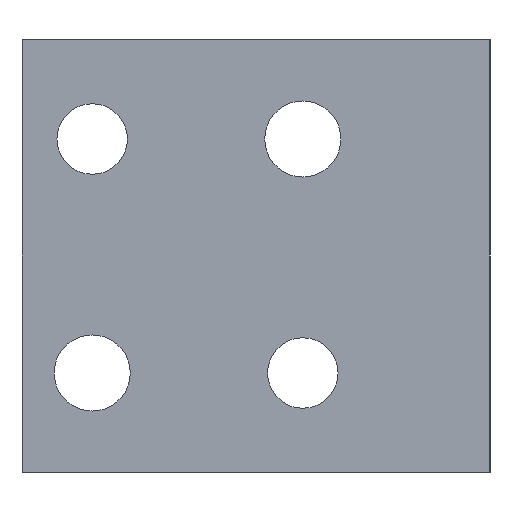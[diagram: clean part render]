
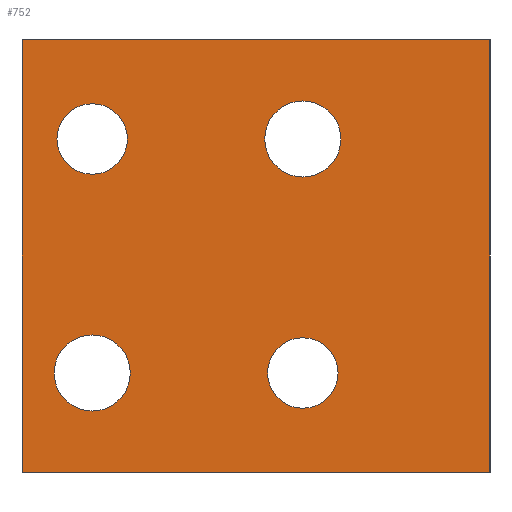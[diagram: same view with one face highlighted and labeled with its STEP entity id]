
A CAD part, left-side view. The second image highlights one B-rep face of the part: STEP entity #752.
In plain terms, the highlighted planar face has unit normal (-1, 0, 0).
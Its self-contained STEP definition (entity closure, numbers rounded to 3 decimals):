
#58 = VERTEX_POINT ( 'NONE', #102 ) ;
#62 = VERTEX_POINT ( 'NONE', #104 ) ;
#64 = VERTEX_POINT ( 'NONE', #106 ) ;
#102 = CARTESIAN_POINT ( 'NONE',  ( 0., 37.25, -10. ) ) ;
#104 = CARTESIAN_POINT ( 'NONE',  ( 0., 0., 18.5 ) ) ;
#106 = CARTESIAN_POINT ( 'NONE',  ( 0., 0., -18.5 ) ) ;
#109 = CARTESIAN_POINT ( 'NONE',  ( 0., 40., -18.5 ) ) ;
#113 = CARTESIAN_POINT ( 'NONE',  ( 0., 19.25, 10. ) ) ;
#122 = CARTESIAN_POINT ( 'NONE',  ( 0., 19.01, -10. ) ) ;
#124 = CARTESIAN_POINT ( 'NONE',  ( 0., 40., 18.5 ) ) ;
#127 = CARTESIAN_POINT ( 'NONE',  ( 0., 12.75, 10. ) ) ;
#128 = CARTESIAN_POINT ( 'NONE',  ( 0., 12.99, -10. ) ) ;
#129 = CARTESIAN_POINT ( 'NONE',  ( 0., 30.75, -10. ) ) ;
#182 = DIRECTION ( 'NONE',  ( 1., 0., 0. ) ) ;
#184 = CARTESIAN_POINT ( 'NONE',  ( 0., 40., 18.5 ) ) ;
#186 = PLANE ( 'NONE',  #684 ) ;
#189 = DIRECTION ( 'NONE',  ( 0., 1., 0. ) ) ;
#254 = CARTESIAN_POINT ( 'NONE',  ( 0., 34., -10. ) ) ;
#255 = DIRECTION ( 'NONE',  ( -1., 0., 0. ) ) ;
#256 = DIRECTION ( 'NONE',  ( 0., -1., 0. ) ) ;
#264 = CARTESIAN_POINT ( 'NONE',  ( 0., 16., 10. ) ) ;
#265 = DIRECTION ( 'NONE',  ( -1., 0., 0. ) ) ;
#266 = DIRECTION ( 'NONE',  ( 0., -1., 0. ) ) ;
#274 = CARTESIAN_POINT ( 'NONE',  ( 0., 16., -10. ) ) ;
#275 = DIRECTION ( 'NONE',  ( -1., 0., 0. ) ) ;
#276 = DIRECTION ( 'NONE',  ( 0., -1., 0. ) ) ;
#283 = CARTESIAN_POINT ( 'NONE',  ( 0., 34., 10. ) ) ;
#284 = DIRECTION ( 'NONE',  ( -1., 0., 0. ) ) ;
#285 = DIRECTION ( 'NONE',  ( 0., -1., 0. ) ) ;
#286 = CARTESIAN_POINT ( 'NONE',  ( 0., 34., -10. ) ) ;
#287 = DIRECTION ( 'NONE',  ( -1., 0., 0. ) ) ;
#288 = DIRECTION ( 'NONE',  ( 0., -1., 0. ) ) ;
#289 = CARTESIAN_POINT ( 'NONE',  ( 0., 16., 10. ) ) ;
#290 = DIRECTION ( 'NONE',  ( -1., 0., 0. ) ) ;
#291 = DIRECTION ( 'NONE',  ( 0., -1., 0. ) ) ;
#292 = CARTESIAN_POINT ( 'NONE',  ( 0., 40., 18.5 ) ) ;
#293 = DIRECTION ( 'NONE',  ( 0., 0., -1. ) ) ;
#294 = CARTESIAN_POINT ( 'NONE',  ( 0., 16., -10. ) ) ;
#295 = DIRECTION ( 'NONE',  ( -1., 0., 0. ) ) ;
#296 = DIRECTION ( 'NONE',  ( 0., -1., 0. ) ) ;
#297 = CARTESIAN_POINT ( 'NONE',  ( 0., 40., 18.5 ) ) ;
#298 = CARTESIAN_POINT ( 'NONE',  ( 0., 40., -18.5 ) ) ;
#299 = CARTESIAN_POINT ( 'NONE',  ( 0., 34., 10. ) ) ;
#300 = DIRECTION ( 'NONE',  ( -1., 0., 0. ) ) ;
#301 = DIRECTION ( 'NONE',  ( 0., -1., 0. ) ) ;
#302 = DIRECTION ( 'NONE',  ( 0., -1., 0. ) ) ;
#303 = CARTESIAN_POINT ( 'NONE',  ( 0., 0., 18.5 ) ) ;
#304 = DIRECTION ( 'NONE',  ( 0., 0., -1. ) ) ;
#305 = DIRECTION ( 'NONE',  ( 0., -1., 0. ) ) ;
#322 = CARTESIAN_POINT ( 'NONE',  ( 0., 30.99, 10. ) ) ;
#333 = CARTESIAN_POINT ( 'NONE',  ( 0., 37.01, 10. ) ) ;
#362 = EDGE_LOOP ( 'NONE', ( #515, #535 ) ) ;
#371 = EDGE_LOOP ( 'NONE', ( #516, #508 ) ) ;
#372 = EDGE_LOOP ( 'NONE', ( #507, #505, #512, #471 ) ) ;
#471 = ORIENTED_EDGE ( 'NONE', *, *, #795, .F. ) ;
#473 = ORIENTED_EDGE ( 'NONE', *, *, #790, .F. ) ;
#505 = ORIENTED_EDGE ( 'NONE', *, *, #793, .T. ) ;
#507 = ORIENTED_EDGE ( 'NONE', *, *, #792, .T. ) ;
#508 = ORIENTED_EDGE ( 'NONE', *, *, #786, .F. ) ;
#511 = ORIENTED_EDGE ( 'NONE', *, *, #778, .F. ) ;
#512 = ORIENTED_EDGE ( 'NONE', *, *, #794, .F. ) ;
#514 = ORIENTED_EDGE ( 'NONE', *, *, #789, .F. ) ;
#515 = ORIENTED_EDGE ( 'NONE', *, *, #788, .F. ) ;
#516 = ORIENTED_EDGE ( 'NONE', *, *, #791, .F. ) ;
#529 = ORIENTED_EDGE ( 'NONE', *, *, #782, .F. ) ;
#535 = ORIENTED_EDGE ( 'NONE', *, *, #774, .F. ) ;
#637 = FACE_BOUND ( 'NONE', #362, .T. ) ;
#638 = FACE_BOUND ( 'NONE', #666, .T. ) ;
#639 = FACE_OUTER_BOUND ( 'NONE', #372, .T. ) ;
#640 = FACE_BOUND ( 'NONE', #371, .T. ) ;
#641 = FACE_BOUND ( 'NONE', #962, .T. ) ;
#656 = VERTEX_POINT ( 'NONE', #113 ) ;
#658 = VERTEX_POINT ( 'NONE', #109 ) ;
#666 = EDGE_LOOP ( 'NONE', ( #473, #529 ) ) ;
#684 = AXIS2_PLACEMENT_3D ( 'NONE', #184, #182, #189 ) ;
#702 = AXIS2_PLACEMENT_3D ( 'NONE', #254, #255, #256 ) ;
#704 = AXIS2_PLACEMENT_3D ( 'NONE', #264, #265, #266 ) ;
#706 = AXIS2_PLACEMENT_3D ( 'NONE', #274, #275, #276 ) ;
#708 = AXIS2_PLACEMENT_3D ( 'NONE', #283, #284, #285 ) ;
#709 = AXIS2_PLACEMENT_3D ( 'NONE', #286, #287, #288 ) ;
#710 = AXIS2_PLACEMENT_3D ( 'NONE', #289, #290, #291 ) ;
#711 = AXIS2_PLACEMENT_3D ( 'NONE', #294, #295, #296 ) ;
#712 = AXIS2_PLACEMENT_3D ( 'NONE', #299, #300, #301 ) ;
#727 = VERTEX_POINT ( 'NONE', #122 ) ;
#729 = VERTEX_POINT ( 'NONE', #124 ) ;
#732 = VERTEX_POINT ( 'NONE', #127 ) ;
#733 = VERTEX_POINT ( 'NONE', #128 ) ;
#734 = VERTEX_POINT ( 'NONE', #129 ) ;
#752 = ADVANCED_FACE ( 'NONE', ( #637, #641, #638, #640, #639 ), #186, .F. ) ;
#774 = EDGE_CURVE ( 'NONE', #58, #734, #862, .T. ) ;
#778 = EDGE_CURVE ( 'NONE', #656, #732, #868, .T. ) ;
#782 = EDGE_CURVE ( 'NONE', #727, #733, #874, .T. ) ;
#786 = EDGE_CURVE ( 'NONE', #1061, #1056, #880, .T. ) ;
#788 = EDGE_CURVE ( 'NONE', #734, #58, #883, .T. ) ;
#789 = EDGE_CURVE ( 'NONE', #732, #656, #885, .T. ) ;
#790 = EDGE_CURVE ( 'NONE', #733, #727, #886, .T. ) ;
#791 = EDGE_CURVE ( 'NONE', #1056, #1061, #887, .T. ) ;
#792 = EDGE_CURVE ( 'NONE', #729, #658, #888, .T. ) ;
#793 = EDGE_CURVE ( 'NONE', #658, #64, #879, .T. ) ;
#794 = EDGE_CURVE ( 'NONE', #62, #64, #891, .T. ) ;
#795 = EDGE_CURVE ( 'NONE', #729, #62, #889, .T. ) ;
#862 = CIRCLE ( 'NONE', #702, 3.25 ) ;
#868 = CIRCLE ( 'NONE', #704, 3.25 ) ;
#874 = CIRCLE ( 'NONE', #706, 3.01 ) ;
#879 = LINE ( 'NONE', #298, #892 ) ;
#880 = CIRCLE ( 'NONE', #708, 3.01 ) ;
#883 = CIRCLE ( 'NONE', #709, 3.25 ) ;
#885 = CIRCLE ( 'NONE', #710, 3.25 ) ;
#886 = CIRCLE ( 'NONE', #711, 3.01 ) ;
#887 = CIRCLE ( 'NONE', #712, 3.01 ) ;
#888 = LINE ( 'NONE', #292, #890 ) ;
#889 = LINE ( 'NONE', #297, #896 ) ;
#890 = VECTOR ( 'NONE', #293, 1000. ) ;
#891 = LINE ( 'NONE', #303, #894 ) ;
#892 = VECTOR ( 'NONE', #302, 1000. ) ;
#894 = VECTOR ( 'NONE', #304, 1000. ) ;
#896 = VECTOR ( 'NONE', #305, 1000. ) ;
#962 = EDGE_LOOP ( 'NONE', ( #514, #511 ) ) ;
#1056 = VERTEX_POINT ( 'NONE', #322 ) ;
#1061 = VERTEX_POINT ( 'NONE', #333 ) ;
